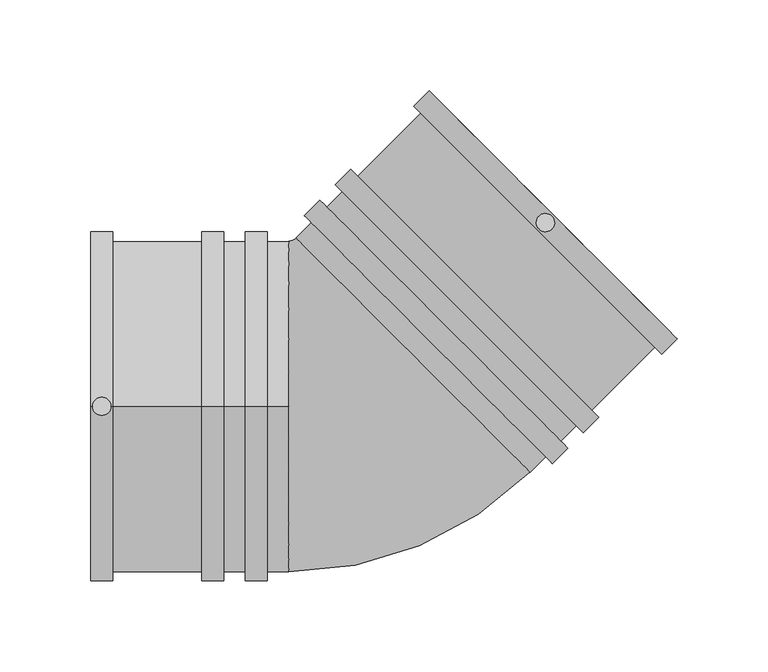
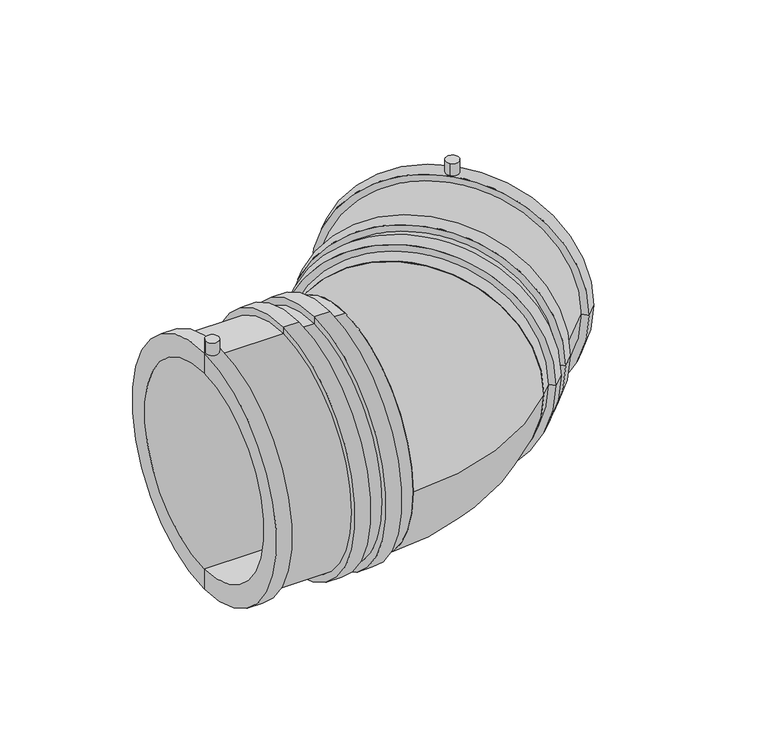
"""IFC4 building model written with IfcOpenShell, lengths in millimetres: pipe fitting geometry, Plumbing_Pipe-Fittings_Plasson_LightFit-Elbow-45_46060 : Plumbing_Pipe-Fittings_Plasson_LightFit-Elbow-45_46060."""

from ifc_helpers import new_model, si_unit, point, frame, frame_2d, origin, place, context, project, spatial, polyline, circle_curve, ellipse_curve, trimmed, segment, composite_curve, outline, extrude, source, transform, mapped, element, save
from ifc_brep_helpers import plane_surface, cylinder_surface, revolved_surface, advanced_brep


def pipe_fitting_46703393(model_context):
    return source(origin(), model_context, "Body", "SolidModel", [
        extrude(outline(composite_curve([segment(trimmed(circle_curve(frame_2d((-143.0130301, 0.0)), 5.0), [point((-148.0130301, 0.0))], [point((-138.0130301, 0.0))], False, "CARTESIAN"), True, "CONTINUOUS"), segment(trimmed(circle_curve(frame_2d((-143.0130301, 0.0)), 5.0), [point((-138.0130301, 0.0))], [point((-148.0130301, 0.0))], False, "CARTESIAN"), True, "CONTINUOUS")], self_intersect=False)), frame((0.0, 0.0, 88.25), z_axis=(0.0, 0.0, 1.0), x_axis=(1.0, 0.0, 0.0)), (0.0, 0.0, 1.0), 17.75),
        extrude(outline(composite_curve([segment(trimmed(circle_curve(frame_2d((101.1254834, 101.1254834)), 5.0), [point((97.5899495, 97.5899495))], [point((104.6610173, 104.6610173))], False, "CARTESIAN"), True, "CONTINUOUS"), segment(trimmed(circle_curve(frame_2d((101.1254834, 101.1254834)), 5.0), [point((104.6610173, 104.6610173))], [point((97.5899495, 97.5899495))], False, "CARTESIAN"), True, "CONTINUOUS")], self_intersect=False)), frame((0.0, 0.0, 88.25), z_axis=(0.0, 0.0, 1.0), x_axis=(1.0, 0.0, 0.0)), (0.0, 0.0, 1.0), 17.75),
        advanced_brep(
        [(161.9366666, 48.7995816, 0.0), (48.7995816, 161.9366666, 0.0), (-28.2750576, 84.8620274, 0.0), (84.8620274, -28.2750576, 0.0), (173.6039285, 37.1323197, 0.0), (37.1323197, 173.6039285, 0.0), (165.1186471, 28.6470383, 0.0), (28.6470383, 165.1186471, 0.0), (161.3002705, 32.4654149, 0.0), (32.4654149, 161.3002705, 0.0), (126.6302417, -2.2046138, 0.0), (-2.2046138, 126.6302417, 0.0), (-36.1239428, 92.7109127, 0.0), (92.7109127, -36.1239428, 0.0), (130.4486184, -6.0229904, 0.0), (-6.0229904, 130.4486184, 0.0), (121.963337, -14.5082718, 0.0), (-14.5082718, 121.963337, 0.0), (118.1449604, -10.6898952, 0.0), (-10.6898952, 118.1449604, 0.0), (109.659679, -19.1751765, 0.0), (-19.1751765, 109.659679, 0.0), (113.4780556, -22.9935532, 0.0), (-22.9935532, 113.4780556, 0.0), (104.9927742, -31.4788345, 0.0), (-31.4788345, 104.9927742, 0.0), (101.1743976, -27.6604579, 0.0), (-27.6604579, 101.1743976, 0.0)],
        [
            (0, 1, circle_curve(frame((105.3681241, 105.3681241, 0.0), z_axis=(0.7071067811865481, 0.707106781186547, 0.0), x_axis=(-0.7071067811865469, 0.707106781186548, 0.0)), 80.0)),
            (1, 2),
            (2, 3, circle_curve(frame((28.2934849, 28.2934849, 0.0), z_axis=(-0.7071067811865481, -0.707106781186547, 0.0), x_axis=(-0.7071067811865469, 0.707106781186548, 0.0)), 80.0)),
            (3, 0),
            (1, 0, circle_curve(frame((105.3681241, 105.3681241, 0.0), z_axis=(0.7071067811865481, 0.707106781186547, 0.0), x_axis=(-0.7071067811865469, 0.707106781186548, 0.0)), 80.0)),
            (3, 2, circle_curve(frame((28.2934849, 28.2934849, 0.0), z_axis=(-0.7071067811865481, -0.707106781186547, 0.0), x_axis=(-0.7071067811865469, 0.707106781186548, 0.0)), 80.0)),
            (4, 5, circle_curve(frame((105.3681241, 105.3681241, 0.0), z_axis=(0.7071067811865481, 0.707106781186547, 0.0), x_axis=(-0.7071067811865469, 0.707106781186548, 0.0)), 96.5)),
            (5, 1),
            (0, 4),
            (5, 4, circle_curve(frame((105.3681241, 105.3681241, 0.0), z_axis=(0.7071067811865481, 0.707106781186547, 0.0), x_axis=(-0.7071067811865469, 0.707106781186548, 0.0)), 96.5)),
            (6, 7, circle_curve(frame((96.8828427, 96.8828427, 0.0), z_axis=(0.7071067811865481, 0.707106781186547, 0.0), x_axis=(-0.7071067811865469, 0.707106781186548, 0.0)), 96.5)),
            (7, 5),
            (4, 6),
            (7, 6, circle_curve(frame((96.8828427, 96.8828427, 0.0), z_axis=(0.7071067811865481, 0.707106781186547, 0.0), x_axis=(-0.7071067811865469, 0.707106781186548, 0.0)), 96.5)),
            (8, 9, circle_curve(frame((96.8828427, 96.8828427, 0.0), z_axis=(0.7071067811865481, 0.707106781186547, 0.0), x_axis=(-0.7071067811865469, 0.707106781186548, 0.0)), 91.1)),
            (9, 7),
            (6, 8),
            (9, 8, circle_curve(frame((96.8828427, 96.8828427, 0.0), z_axis=(0.7071067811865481, 0.707106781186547, 0.0), x_axis=(-0.7071067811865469, 0.707106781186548, 0.0)), 91.1)),
            (10, 11, circle_curve(frame((62.212814, 62.212814, 0.0), z_axis=(0.7071067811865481, 0.707106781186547, 0.0), x_axis=(-0.7071067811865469, 0.707106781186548, 0.0)), 91.1)),
            (11, 9),
            (8, 10),
            (11, 10, circle_curve(frame((62.212814, 62.212814, 0.0), z_axis=(0.7071067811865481, 0.707106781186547, 0.0), x_axis=(-0.7071067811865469, 0.707106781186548, 0.0)), 91.1)),
            (2, 12),
            (12, 13, circle_curve(frame((28.2934849, 28.2934849, 0.0), z_axis=(-0.7071067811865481, -0.707106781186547, 0.0), x_axis=(-0.7071067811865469, 0.707106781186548, 0.0)), 91.1)),
            (13, 3),
            (13, 12, circle_curve(frame((28.2934849, 28.2934849, 0.0), z_axis=(-0.7071067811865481, -0.707106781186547, 0.0), x_axis=(-0.7071067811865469, 0.707106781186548, 0.0)), 91.1)),
            (14, 15, circle_curve(frame((62.212814, 62.212814, 0.0), z_axis=(0.7071067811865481, 0.707106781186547, 0.0), x_axis=(-0.7071067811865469, 0.707106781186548, 0.0)), 96.5)),
            (15, 11),
            (10, 14),
            (15, 14, circle_curve(frame((62.212814, 62.212814, 0.0), z_axis=(0.7071067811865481, 0.707106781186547, 0.0), x_axis=(-0.7071067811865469, 0.707106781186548, 0.0)), 96.5)),
            (16, 17, circle_curve(frame((53.7275326, 53.7275326, 0.0), z_axis=(0.7071067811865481, 0.707106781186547, 0.0), x_axis=(-0.7071067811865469, 0.707106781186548, 0.0)), 96.5)),
            (17, 15),
            (14, 16),
            (17, 16, circle_curve(frame((53.7275326, 53.7275326, 0.0), z_axis=(0.7071067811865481, 0.707106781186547, 0.0), x_axis=(-0.7071067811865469, 0.707106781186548, 0.0)), 96.5)),
            (18, 19, circle_curve(frame((53.7275326, 53.7275326, 0.0), z_axis=(0.7071067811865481, 0.707106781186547, 0.0), x_axis=(-0.7071067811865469, 0.707106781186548, 0.0)), 91.1)),
            (19, 17),
            (16, 18),
            (19, 18, circle_curve(frame((53.7275326, 53.7275326, 0.0), z_axis=(0.7071067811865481, 0.707106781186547, 0.0), x_axis=(-0.7071067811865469, 0.707106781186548, 0.0)), 91.1)),
            (20, 21, circle_curve(frame((45.2422512, 45.2422512, 0.0), z_axis=(0.7071067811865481, 0.707106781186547, 0.0), x_axis=(-0.7071067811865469, 0.707106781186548, 0.0)), 91.1)),
            (21, 19),
            (18, 20),
            (21, 20, circle_curve(frame((45.2422512, 45.2422512, 0.0), z_axis=(0.7071067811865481, 0.707106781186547, 0.0), x_axis=(-0.7071067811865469, 0.707106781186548, 0.0)), 91.1)),
            (22, 23, circle_curve(frame((45.2422512, 45.2422512, 0.0), z_axis=(0.7071067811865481, 0.707106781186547, 0.0), x_axis=(-0.7071067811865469, 0.707106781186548, 0.0)), 96.5)),
            (23, 21),
            (20, 22),
            (23, 22, circle_curve(frame((45.2422512, 45.2422512, 0.0), z_axis=(0.7071067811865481, 0.707106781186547, 0.0), x_axis=(-0.7071067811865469, 0.707106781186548, 0.0)), 96.5)),
            (24, 25, circle_curve(frame((36.7569699, 36.7569699, 0.0), z_axis=(0.7071067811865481, 0.707106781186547, 0.0), x_axis=(-0.7071067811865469, 0.707106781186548, 0.0)), 96.5)),
            (25, 23),
            (22, 24),
            (25, 24, circle_curve(frame((36.7569699, 36.7569699, 0.0), z_axis=(0.7071067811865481, 0.707106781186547, 0.0), x_axis=(-0.7071067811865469, 0.707106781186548, 0.0)), 96.5)),
            (26, 27, circle_curve(frame((36.7569699, 36.7569699, 0.0), z_axis=(0.7071067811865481, 0.707106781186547, 0.0), x_axis=(-0.7071067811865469, 0.707106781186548, 0.0)), 91.1)),
            (27, 25),
            (24, 26),
            (27, 26, circle_curve(frame((36.7569699, 36.7569699, 0.0), z_axis=(0.7071067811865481, 0.707106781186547, 0.0), x_axis=(-0.7071067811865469, 0.707106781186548, 0.0)), 91.1)),
            (12, 27),
            (26, 13),
        ],
        [
            revolved_surface(polyline([(-28.27505759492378, 84.86202739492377, 0.0), (48.79958160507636, 161.9366665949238, 0.0)]), (0.0, 0.0, 0.0), (-0.707106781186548, -0.7071067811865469, 0.0)),
            plane_surface(frame((105.3681241, 105.3681241, 0.0), z_axis=(0.7071067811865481, 0.707106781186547, 0.0), x_axis=(-0.707106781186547, 0.7071067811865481, 0.0))),
            cylinder_surface(frame((0.0, 0.0, 0.0), z_axis=(-0.707106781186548, -0.7071067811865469, 0.0), x_axis=(-0.7071067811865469, 0.707106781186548, 0.0)), 96.5),
            plane_surface(frame((96.8828427, 96.8828427, 0.0), z_axis=(-0.7071067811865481, -0.707106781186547, 0.0), x_axis=(-0.707106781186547, 0.7071067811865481, 0.0))),
            cylinder_surface(frame((0.0, 0.0, 0.0), z_axis=(-0.707106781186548, -0.7071067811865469, 0.0), x_axis=(-0.7071067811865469, 0.707106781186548, 0.0)), 91.1),
            plane_surface(frame((28.2934849, 28.2934849, 0.0), z_axis=(-0.7071067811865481, -0.707106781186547, 0.0), x_axis=(-0.707106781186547, 0.7071067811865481, 0.0))),
            plane_surface(frame((62.212814, 62.212814, 0.0), z_axis=(0.7071067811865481, 0.707106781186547, 0.0), x_axis=(-0.707106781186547, 0.7071067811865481, 0.0))),
            plane_surface(frame((53.7275326, 53.7275326, 0.0), z_axis=(-0.7071067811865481, -0.707106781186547, 0.0), x_axis=(-0.707106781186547, 0.7071067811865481, 0.0))),
            plane_surface(frame((45.2422512, 45.2422512, 0.0), z_axis=(0.7071067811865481, 0.707106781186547, 0.0), x_axis=(-0.707106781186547, 0.7071067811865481, 0.0))),
            plane_surface(frame((36.7569699, 36.7569699, 0.0), z_axis=(-0.7071067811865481, -0.707106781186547, 0.0), x_axis=(-0.707106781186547, 0.7071067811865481, 0.0))),
        ],
        [
            (0, [[1, 2, 3, 4]]),
            (0, [[5, -4, 6, -2]]),
            (1, [[7, 8, -1, 9]]),
            (1, [[10, -9, -5, -8]]),
            (2, [[11, 12, -7, 13]]),
            (2, [[14, -13, -10, -12]]),
            (3, [[15, 16, -11, 17]]),
            (3, [[18, -17, -14, -16]]),
            (4, [[19, 20, -15, 21]]),
            (4, [[22, -21, -18, -20]]),
            (5, [[-3, 23, 24, 25]]),
            (5, [[-6, -25, 26, -23]]),
            (6, [[27, 28, -19, 29]]),
            (6, [[30, -29, -22, -28]]),
            (2, [[31, 32, -27, 33]]),
            (2, [[34, -33, -30, -32]]),
            (7, [[35, 36, -31, 37]]),
            (7, [[38, -37, -34, -36]]),
            (4, [[39, 40, -35, 41]]),
            (4, [[42, -41, -38, -40]]),
            (8, [[43, 44, -39, 45]]),
            (8, [[46, -45, -42, -44]]),
            (2, [[47, 48, -43, 49]]),
            (2, [[50, -49, -46, -48]]),
            (9, [[51, 52, -47, 53]]),
            (9, [[54, -53, -50, -52]]),
            (4, [[-24, 55, -51, 56]]),
            (4, [[-26, -56, -54, -55]]),
        ],
    ),
        advanced_brep(
        [(-40.0130301, -91.0, 0.0), (-40.0130301, 91.0, 0.0), (92.640202, -36.0532322, 0.0), (-36.0532322, 92.640202, 0.0)],
        [
            (0, 1, circle_curve(frame((-40.0130301, 0.0, 0.0), z_axis=(-1.0, 0.0, 0.0), x_axis=(0.0, 1.0, 0.0)), 91.0)),
            (1, 0, circle_curve(frame((-40.0130301, 0.0, 0.0), z_axis=(-1.0, 0.0, 0.0), x_axis=(0.0, 1.0, 0.0)), 91.0)),
            (2, 3, circle_curve(frame((28.2934849, 28.2934849, 0.0), z_axis=(0.7071067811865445, 0.7071067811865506, 0.0), x_axis=(-0.7071067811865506, 0.7071067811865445, 0.0)), 91.0)),
            (3, 2, circle_curve(frame((28.2934849, 28.2934849, 0.0), z_axis=(0.7071067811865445, 0.7071067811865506, 0.0), x_axis=(-0.7071067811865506, 0.7071067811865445, 0.0)), 91.0)),
            (3, 1, circle_curve(frame((-40.0130301, 96.6, 0.0), z_axis=(0.0, 0.0, -1.0), x_axis=(0.0, -1.0, 0.0)), 5.6)),
            (0, 2, circle_curve(frame((-40.0130301, 96.6, 0.0), z_axis=(0.0, 0.0, 1.0), x_axis=(0.0, -1.0, 0.0)), 187.6)),
        ],
        [
            plane_surface(frame((-40.0130301, 0.0, 0.0), z_axis=(-1.0, 0.0, 0.0), x_axis=(0.0, 0.0, 1.0))),
            plane_surface(frame((28.2934849, 28.2934849, 0.0), z_axis=(0.7071067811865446, 0.7071067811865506, 0.0), x_axis=(0.0, 0.0, 1.0))),
            revolved_surface(trimmed(ellipse_curve(frame((-40.0130301, 0.0, 0.0), z_axis=(-1.0, 0.0, 0.0), x_axis=(0.0, 1.0, 0.0)), 91.0, 91.0), [point((-40.0130301, -91.0, 0.0))], [point((-40.0130301, 91.0, 0.0))], True, "CARTESIAN"), (-40.0130301, 96.6, 0.0), (0.0, 0.0, 1.0)),
            revolved_surface(trimmed(ellipse_curve(frame((-40.0130301, 0.0, 0.0), z_axis=(-1.0, 0.0, 0.0), x_axis=(0.0, 1.0, 0.0)), 91.0, 91.0), [point((-40.0130301, 91.0, 0.0))], [point((-40.0130301, -91.0, 0.0))], True, "CARTESIAN"), (-40.0130301, 96.6, 0.0), (0.0, 0.0, 1.0)),
        ],
        [
            (0, [[1, 2]]),
            (1, [[3, 4]]),
            (2, [[5, -1, 6, -4]]),
            (3, [[-6, -2, -5, -3]]),
        ],
    ),
        advanced_brep(
        [(-40.0130301, 0.0, -80.0), (-40.0130301, 0.0, 80.0), (-149.0130301, 0.0, 80.0), (-149.0130301, 0.0, -80.0), (-137.0130301, 0.0, -91.0), (-137.0130301, 0.0, 91.0), (-88.0130301, 0.0, 91.0), (-88.0130301, 0.0, -91.0), (-137.0130301, 0.0, -96.5), (-137.0130301, 0.0, 96.5), (-149.0130301, 0.0, -96.5), (-149.0130301, 0.0, 96.5), (-40.0130301, 0.0, -91.0), (-40.0130301, 0.0, 91.0), (-64.0130301, 0.0, -96.5), (-64.0130301, 0.0, 96.5), (-52.0291811, 0.0, 96.5), (-52.0291811, 0.0, -96.5), (-64.0130301, 0.0, -91.0), (-64.0130301, 0.0, 91.0), (-76.0130301, 0.0, -91.0), (-76.0130301, 0.0, 91.0), (-76.0130301, 0.0, -96.5), (-76.0130301, 0.0, 96.5), (-88.0130301, 0.0, -96.5), (-88.0130301, 0.0, 96.5), (-52.0291811, 0.0, -91.0), (-52.0291811, 0.0, 91.0)],
        [
            (0, 1, circle_curve(frame((-40.0130301, 0.0, 0.0), z_axis=(1.0, 0.0, 0.0), x_axis=(0.0, 0.0, 1.0)), 80.0)),
            (1, 2),
            (2, 3, circle_curve(frame((-149.0130301, 0.0, 0.0), z_axis=(-1.0, 0.0, 0.0), x_axis=(0.0, 0.0, 1.0)), 80.0)),
            (3, 0),
            (1, 0, circle_curve(frame((-40.0130301, 0.0, 0.0), z_axis=(1.0, 0.0, 0.0), x_axis=(0.0, 0.0, 1.0)), 80.0)),
            (3, 2, circle_curve(frame((-149.0130301, 0.0, 0.0), z_axis=(-1.0, 0.0, 0.0), x_axis=(0.0, 0.0, 1.0)), 80.0)),
            (4, 5, circle_curve(frame((-137.0130301, 0.0, 0.0), z_axis=(1.0, 0.0, 0.0), x_axis=(0.0, 0.0, 1.0)), 91.0)),
            (5, 6),
            (6, 7, circle_curve(frame((-88.0130301, 0.0, 0.0), z_axis=(-1.0, 0.0, 0.0), x_axis=(0.0, 0.0, 1.0)), 91.0)),
            (7, 4),
            (5, 4, circle_curve(frame((-137.0130301, 0.0, 0.0), z_axis=(1.0, 0.0, 0.0), x_axis=(0.0, 0.0, 1.0)), 91.0)),
            (7, 6, circle_curve(frame((-88.0130301, 0.0, 0.0), z_axis=(-1.0, 0.0, 0.0), x_axis=(0.0, 0.0, 1.0)), 91.0)),
            (8, 9, circle_curve(frame((-137.0130301, 0.0, 0.0), z_axis=(1.0, 0.0, 0.0), x_axis=(0.0, 0.0, 1.0)), 96.5)),
            (9, 5),
            (4, 8),
            (9, 8, circle_curve(frame((-137.0130301, 0.0, 0.0), z_axis=(1.0, 0.0, 0.0), x_axis=(0.0, 0.0, 1.0)), 96.5)),
            (10, 11, circle_curve(frame((-149.0130301, 0.0, 0.0), z_axis=(1.0, 0.0, 0.0), x_axis=(0.0, 0.0, 1.0)), 96.5)),
            (11, 9),
            (8, 10),
            (11, 10, circle_curve(frame((-149.0130301, 0.0, 0.0), z_axis=(1.0, 0.0, 0.0), x_axis=(0.0, 0.0, 1.0)), 96.5)),
            (2, 11),
            (10, 3),
            (12, 13, circle_curve(frame((-40.0130301, 0.0, 0.0), z_axis=(1.0, 0.0, 0.0), x_axis=(0.0, 0.0, 1.0)), 91.0)),
            (13, 1),
            (0, 12),
            (13, 12, circle_curve(frame((-40.0130301, 0.0, 0.0), z_axis=(1.0, 0.0, 0.0), x_axis=(0.0, 0.0, 1.0)), 91.0)),
            (14, 15, circle_curve(frame((-64.0130301, 0.0, 0.0), z_axis=(1.0, 0.0, 0.0), x_axis=(0.0, 0.0, 1.0)), 96.5)),
            (15, 16),
            (16, 17, circle_curve(frame((-52.0291811, 0.0, 0.0), z_axis=(-1.0, 0.0, 0.0), x_axis=(0.0, 0.0, 1.0)), 96.5)),
            (17, 14),
            (15, 14, circle_curve(frame((-64.0130301, 0.0, 0.0), z_axis=(1.0, 0.0, 0.0), x_axis=(0.0, 0.0, 1.0)), 96.5)),
            (17, 16, circle_curve(frame((-52.0291811, 0.0, 0.0), z_axis=(-1.0, 0.0, 0.0), x_axis=(0.0, 0.0, 1.0)), 96.5)),
            (18, 19, circle_curve(frame((-64.0130301, 0.0, 0.0), z_axis=(1.0, 0.0, 0.0), x_axis=(0.0, 0.0, 1.0)), 91.0)),
            (19, 15),
            (14, 18),
            (19, 18, circle_curve(frame((-64.0130301, 0.0, 0.0), z_axis=(1.0, 0.0, 0.0), x_axis=(0.0, 0.0, 1.0)), 91.0)),
            (20, 21, circle_curve(frame((-76.0130301, 0.0, 0.0), z_axis=(1.0, 0.0, 0.0), x_axis=(0.0, 0.0, 1.0)), 91.0)),
            (21, 19),
            (18, 20),
            (21, 20, circle_curve(frame((-76.0130301, 0.0, 0.0), z_axis=(1.0, 0.0, 0.0), x_axis=(0.0, 0.0, 1.0)), 91.0)),
            (22, 23, circle_curve(frame((-76.0130301, 0.0, 0.0), z_axis=(1.0, 0.0, 0.0), x_axis=(0.0, 0.0, 1.0)), 96.5)),
            (23, 21),
            (20, 22),
            (23, 22, circle_curve(frame((-76.0130301, 0.0, 0.0), z_axis=(1.0, 0.0, 0.0), x_axis=(0.0, 0.0, 1.0)), 96.5)),
            (24, 25, circle_curve(frame((-88.0130301, 0.0, 0.0), z_axis=(1.0, 0.0, 0.0), x_axis=(0.0, 0.0, 1.0)), 96.5)),
            (25, 23),
            (22, 24),
            (25, 24, circle_curve(frame((-88.0130301, 0.0, 0.0), z_axis=(1.0, 0.0, 0.0), x_axis=(0.0, 0.0, 1.0)), 96.5)),
            (6, 25),
            (24, 7),
            (26, 27, circle_curve(frame((-52.0291811, 0.0, 0.0), z_axis=(1.0, 0.0, 0.0), x_axis=(0.0, 0.0, 1.0)), 91.0)),
            (27, 13),
            (12, 26),
            (27, 26, circle_curve(frame((-52.0291811, 0.0, 0.0), z_axis=(1.0, 0.0, 0.0), x_axis=(0.0, 0.0, 1.0)), 91.0)),
            (16, 27),
            (26, 17),
        ],
        [
            revolved_surface(polyline([(-149.0130301, 0.0, 80.0), (-40.01303010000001, 0.0, 80.0)]), (-149.0130301, 0.0, 0.0), (-1.0, 0.0, 0.0)),
            cylinder_surface(frame((-149.0130301, 0.0, 0.0), z_axis=(-1.0, 0.0, 0.0), x_axis=(0.0, 0.0, 1.0)), 91.0),
            plane_surface(frame((-137.0130301, 0.0, 0.0), z_axis=(1.0, 0.0, 0.0), x_axis=(0.0, 0.0, 1.0))),
            cylinder_surface(frame((-149.0130301, 0.0, 0.0), z_axis=(-1.0, 0.0, 0.0), x_axis=(0.0, 0.0, 1.0)), 96.5),
            plane_surface(frame((-149.0130301, 0.0, 0.0), z_axis=(-1.0, 0.0, 0.0), x_axis=(0.0, 0.0, 1.0))),
            plane_surface(frame((-40.0130301, 0.0, 0.0), z_axis=(1.0, 0.0, 0.0), x_axis=(0.0, 0.0, 1.0))),
            plane_surface(frame((-64.0130301, 0.0, 0.0), z_axis=(-1.0, 0.0, 0.0), x_axis=(0.0, 0.0, 1.0))),
            plane_surface(frame((-76.0130301, 0.0, 0.0), z_axis=(1.0, 0.0, 0.0), x_axis=(0.0, 0.0, 1.0))),
            plane_surface(frame((-88.0130301, 0.0, 0.0), z_axis=(-1.0, 0.0, 0.0), x_axis=(0.0, 0.0, 1.0))),
            plane_surface(frame((-52.0291811, 0.0, 0.0), z_axis=(1.0, 0.0, 0.0), x_axis=(0.0, 0.0, 1.0))),
        ],
        [
            (0, [[1, 2, 3, 4]]),
            (0, [[5, -4, 6, -2]]),
            (1, [[7, 8, 9, 10]]),
            (1, [[11, -10, 12, -8]]),
            (2, [[13, 14, -7, 15]]),
            (2, [[16, -15, -11, -14]]),
            (3, [[17, 18, -13, 19]]),
            (3, [[20, -19, -16, -18]]),
            (4, [[-3, 21, -17, 22]]),
            (4, [[-6, -22, -20, -21]]),
            (5, [[23, 24, -1, 25]]),
            (5, [[26, -25, -5, -24]]),
            (3, [[27, 28, 29, 30]]),
            (3, [[31, -30, 32, -28]]),
            (6, [[33, 34, -27, 35]]),
            (6, [[36, -35, -31, -34]]),
            (1, [[37, 38, -33, 39]]),
            (1, [[40, -39, -36, -38]]),
            (7, [[41, 42, -37, 43]]),
            (7, [[44, -43, -40, -42]]),
            (3, [[45, 46, -41, 47]]),
            (3, [[48, -47, -44, -46]]),
            (8, [[-9, 49, -45, 50]]),
            (8, [[-12, -50, -48, -49]]),
            (1, [[51, 52, -23, 53]]),
            (1, [[54, -53, -26, -52]]),
            (9, [[-29, 55, -51, 56]]),
            (9, [[-32, -56, -54, -55]]),
        ],
    ),
    ])


if __name__ == "__main__":
    model = new_model("IFC4")
    model_context = context("Model", 3, world=origin())
    ifc_project = project(units=[si_unit("LENGTHUNIT", "METRE", prefix="MILLI")], contexts=[model_context])
    site = spatial("IfcSite", under=ifc_project)
    building = spatial("IfcBuilding", under=site)
    placement = place(None, origin())
    pipe_fitting_shape = pipe_fitting_46703393(model_context)
    element("IfcPipeFitting", 1, ObjectType="Plumbing_Pipe-Fittings_Plasson_LightFit-Elbow-45_46060 : Plumbing_Pipe-Fittings_Plasson_LightFit-Elbow-45_46060", at=placement, inside=building, context=model_context, shape_type="MappedRepresentation", body=[
        mapped(pipe_fitting_shape, transform((0.0, 0.0, 0.0), x_axis=(1.0, 0.0, 0.0), y_axis=(0.0, 1.0, 0.0), z_axis=(0.0, 0.0, 1.0))),
    ])
    save(model, "model.ifc")
